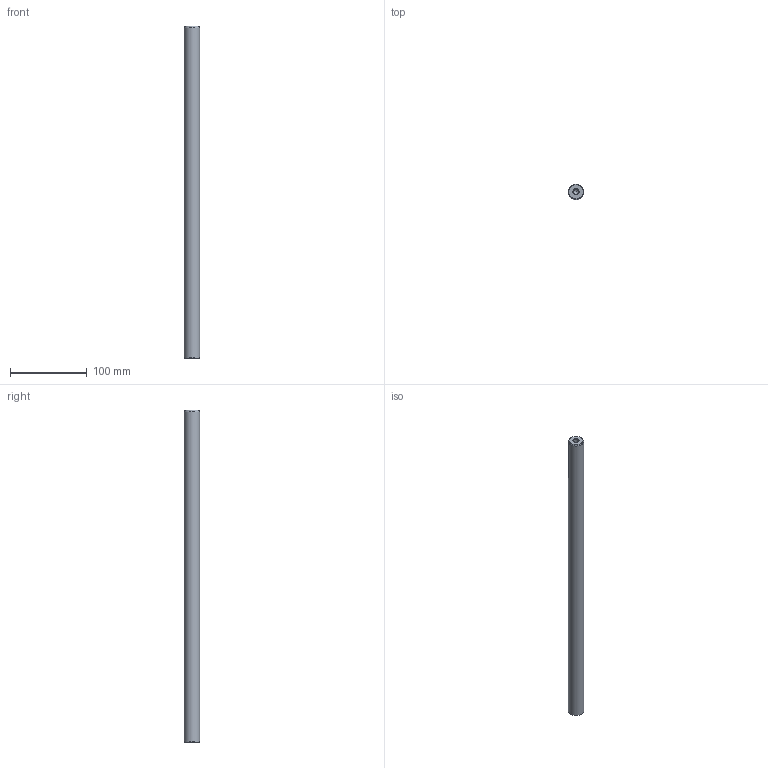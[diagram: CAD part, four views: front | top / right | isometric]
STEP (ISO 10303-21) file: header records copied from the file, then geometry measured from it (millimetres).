
FILE_DESCRIPTION( ( 'STEP AP214' ), '1' );
FILE_NAME( 'U:/Etudes/Top Solid/BIBLIO_Fournisseur/Colonnes UG/Ø20x432.step', '2004-12-22T12:41:38', ( ' ' ), ( ' ' ), 'XStep 1.0', ' ', ' ' );
FILE_SCHEMA( ( 'automotive_design' ) );
Length unit declared in the file: metre
Products named in the file (1): 1
Bounding box: 20 x 20 x 432 mm (x, y, z)
Volume: 134146.8 mm3; surface area: 28587.9 mm2
Topology: 1 solids, 1 shells, 13 faces, 27 edges, 16 vertices
Faces by surface type: cone 6, cylinder 5, plane 2
Full cylindrical faces by diameter (mm): 6.647 x4, 20 x1
Entity records: 382 total; most frequent: DIRECTION 52, CARTESIAN_POINT 40, AXIS2_PLACEMENT_3D 26, EDGE_LOOP 24, ORIENTED_EDGE 24, FACE_OUTER_BOUND 18, VERTEX_POINT 14, STYLED_ITEM 13
